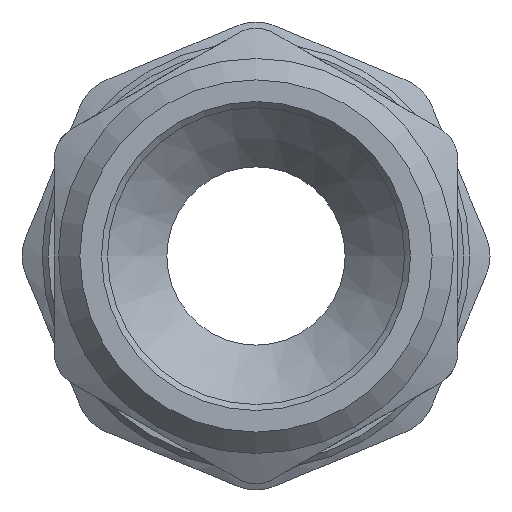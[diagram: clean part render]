
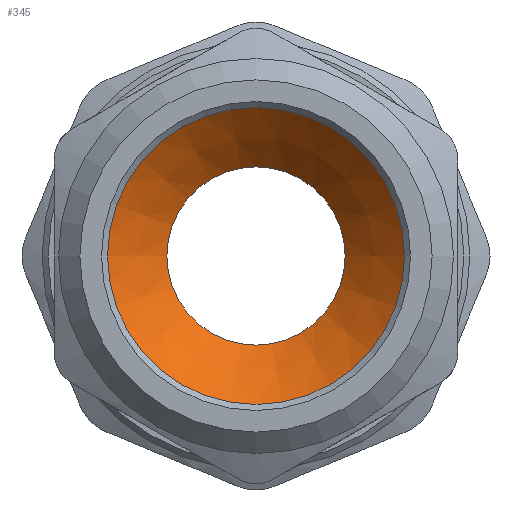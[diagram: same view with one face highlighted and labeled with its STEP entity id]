
A CAD part, front view. The second image highlights one B-rep face of the part: STEP entity #345.
In plain terms, the highlighted conical face has half-angle 45 degrees and reference radius 10 mm.
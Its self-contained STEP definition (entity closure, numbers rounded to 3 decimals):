
#345=ADVANCED_FACE('',(#2384,#2386),#2388,.F.);
#2384=FACE_OUTER_BOUND('',#2385,.T.);
#2385=EDGE_LOOP('',(#4500));
#2386=FACE_OUTER_BOUND('',#2387,.T.);
#2387=EDGE_LOOP('',(#4501));
#2388=CONICAL_SURFACE('',#2389,10.,0.785);
#2389=AXIS2_PLACEMENT_3D('',#2390,#2391,#2392);
#2390=CARTESIAN_POINT('',(0.,24.,0.));
#2391=DIRECTION('',(0.,-1.,0.));
#2392=DIRECTION('',(1.,0.,0.));
#4500=ORIENTED_EDGE('',*,*,#5322,.T.);
#4501=ORIENTED_EDGE('',*,*,#5325,.F.);
#5322=EDGE_CURVE('',#6650,#6650,#6651,.T.);
#5325=EDGE_CURVE('',#6656,#6656,#6657,.T.);
#6650=VERTEX_POINT('',#12213);
#6651=CIRCLE('',#12214,12.5);
#6656=VERTEX_POINT('',#12228);
#6657=CIRCLE('',#12229,7.5);
#12213=CARTESIAN_POINT('',(12.5,21.5,0.));
#12214=AXIS2_PLACEMENT_3D('',#12215,#12216,#12217);
#12215=CARTESIAN_POINT('',(0.,21.5,0.));
#12216=DIRECTION('',(0.,-1.,0.));
#12217=DIRECTION('',(1.,0.,0.));
#12228=CARTESIAN_POINT('',(7.5,26.5,0.));
#12229=AXIS2_PLACEMENT_3D('',#12230,#12231,#12232);
#12230=CARTESIAN_POINT('',(0.,26.5,0.));
#12231=DIRECTION('',(0.,-1.,0.));
#12232=DIRECTION('',(1.,0.,0.));
